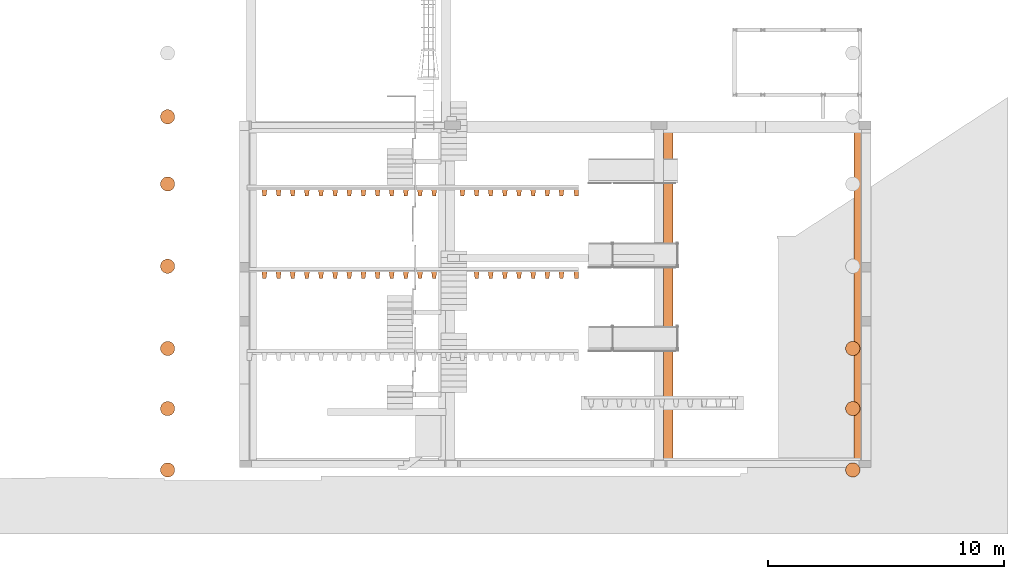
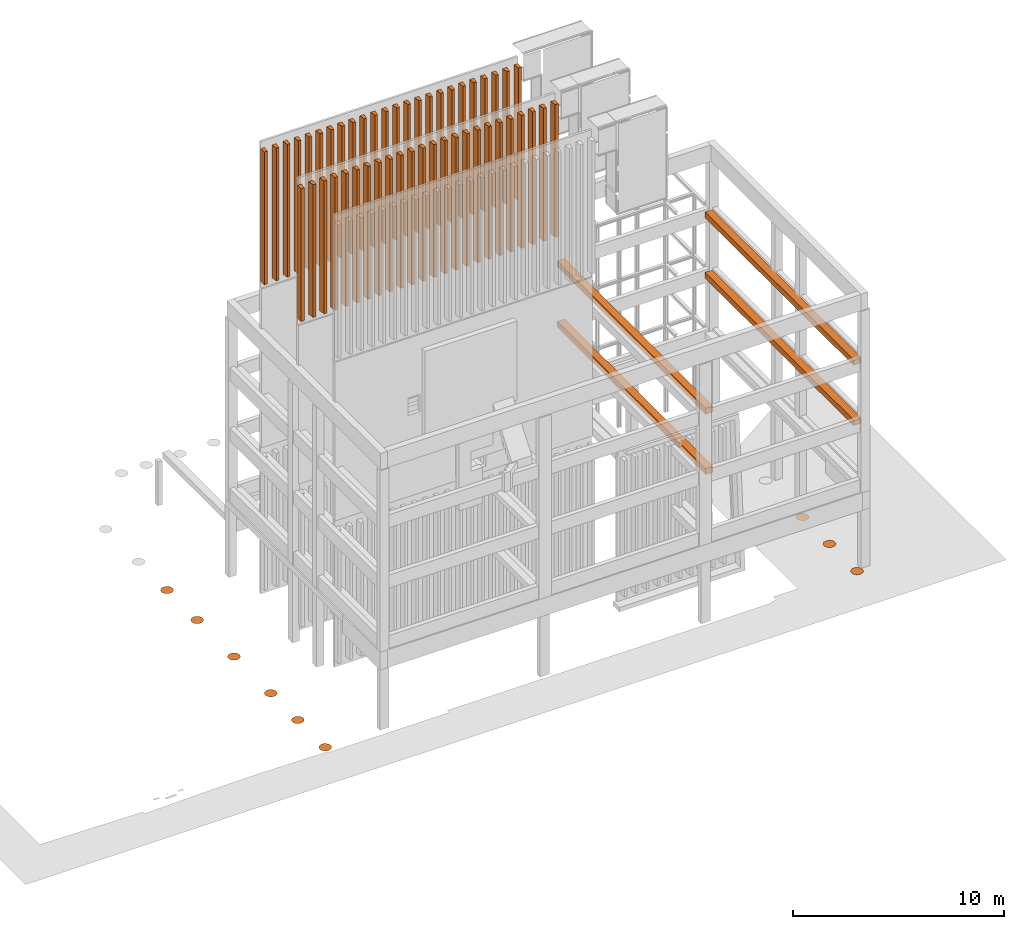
# One storey, part 14 of 15: 11 proxies.
"""IFC2X3 building model written with IfcOpenShell, lengths in metres."""

from ifc_helpers import new_model, entity, si_unit, converted_unit, derived_unit, money_unit, direction, frame, origin_with_axes, place, context, subcontext, project, spatial, open_shell, faceted_brep, surface_model, element, save


model = new_model("IFC2X3")

# Units and contexts
model_context = context("Model", 3, precision=1e-05, world=origin_with_axes(), true_north=direction((0.0, 1.0)))
body_context = subcontext(model_context, "Body", "Model", "MODEL_VIEW", scale=1.0)
ifc_project = project(units=[si_unit("LENGTHUNIT", "METRE"), si_unit("AREAUNIT", "SQUARE_METRE"), si_unit("VOLUMEUNIT", "CUBIC_METRE"), si_unit("ABSORBEDDOSEUNIT", "GRAY"), si_unit("AMOUNTOFSUBSTANCEUNIT", "MOLE"), si_unit("DOSEEQUIVALENTUNIT", "SIEVERT"), si_unit("ELECTRICCAPACITANCEUNIT", "FARAD"), si_unit("ELECTRICCHARGEUNIT", "COULOMB"), si_unit("ELECTRICCONDUCTANCEUNIT", "SIEMENS"), si_unit("ELECTRICCURRENTUNIT", "AMPERE"), si_unit("ELECTRICRESISTANCEUNIT", "OHM"), si_unit("ELECTRICVOLTAGEUNIT", "VOLT"), si_unit("ENERGYUNIT", "JOULE"), si_unit("FORCEUNIT", "NEWTON"), si_unit("FREQUENCYUNIT", "HERTZ"), si_unit("ILLUMINANCEUNIT", "LUX"), si_unit("INDUCTANCEUNIT", "HENRY"), si_unit("LUMINOUSFLUXUNIT", "LUMEN"), si_unit("LUMINOUSINTENSITYUNIT", "CANDELA"), si_unit("MAGNETICFLUXDENSITYUNIT", "TESLA"), si_unit("MAGNETICFLUXUNIT", "WEBER"), si_unit("MASSUNIT", "GRAM"), converted_unit("PLANEANGLEUNIT", "degree", entity("IfcReal", 0.0174532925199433), si_unit("PLANEANGLEUNIT", "RADIAN"), dimensions=[0, 0, 0, 0, 0, 0, 0]), si_unit("POWERUNIT", "WATT"), si_unit("PRESSUREUNIT", "PASCAL"), si_unit("RADIOACTIVITYUNIT", "BECQUEREL"), si_unit("SOLIDANGLEUNIT", "STERADIAN"), si_unit("THERMODYNAMICTEMPERATUREUNIT", "KELVIN"), si_unit("TIMEUNIT", "SECOND"), derived_unit("ACCELERATIONUNIT", [(si_unit("LENGTHUNIT", "METRE"), 1), (si_unit("TIMEUNIT", "SECOND"), -2)]), derived_unit("ANGULARVELOCITYUNIT", [(converted_unit("PLANEANGLEUNIT", "degree", entity("IfcReal", 0.0174532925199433), si_unit("PLANEANGLEUNIT", "RADIAN"), dimensions=[0, 0, 0, 0, 0, 0, 0]), 1), (si_unit("TIMEUNIT", "SECOND"), -1)]), derived_unit("CURVATUREUNIT", [(converted_unit("PLANEANGLEUNIT", "degree", entity("IfcReal", 0.0174532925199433), si_unit("PLANEANGLEUNIT", "RADIAN"), dimensions=[0, 0, 0, 0, 0, 0, 0]), 1), (si_unit("LENGTHUNIT", "METRE"), -1)]), derived_unit("DYNAMICVISCOSITYUNIT", [(si_unit("PRESSUREUNIT", "PASCAL"), 1), (si_unit("TIMEUNIT", "SECOND"), 1)]), derived_unit("HEATFLUXDENSITYUNIT", [(si_unit("POWERUNIT", "WATT"), 1), (si_unit("LENGTHUNIT", "METRE"), -2)]), derived_unit("HEATINGVALUEUNIT", [(si_unit("ENERGYUNIT", "JOULE"), 1), (si_unit("MASSUNIT", "GRAM"), -1)]), derived_unit("INTEGERCOUNTRATEUNIT", [(si_unit("TIMEUNIT", "SECOND"), -1)]), derived_unit("IONCONCENTRATIONUNIT", [(si_unit("MASSUNIT", "GRAM"), 1), (si_unit("VOLUMEUNIT", "CUBIC_METRE"), -1)]), derived_unit("ISOTHERMALMOISTURECAPACITYUNIT", [(si_unit("VOLUMEUNIT", "CUBIC_METRE"), 1), (si_unit("MASSUNIT", "GRAM"), -1)]), derived_unit("KINEMATICVISCOSITYUNIT", [(si_unit("AREAUNIT", "SQUARE_METRE"), 1), (si_unit("TIMEUNIT", "SECOND"), -1)]), derived_unit("LINEARFORCEUNIT", [(si_unit("FORCEUNIT", "NEWTON"), 1), (si_unit("LENGTHUNIT", "METRE"), -1)]), derived_unit("LINEARMOMENTUNIT", [(si_unit("FORCEUNIT", "NEWTON"), 1), (si_unit("LENGTHUNIT", "METRE"), -1)]), derived_unit("LINEARSTIFFNESSUNIT", [(si_unit("FORCEUNIT", "NEWTON"), 1), (si_unit("LENGTHUNIT", "METRE"), -1)]), derived_unit("LINEARVELOCITYUNIT", [(si_unit("LENGTHUNIT", "METRE"), 1), (si_unit("TIMEUNIT", "SECOND"), -1)]), derived_unit("LUMINOUSINTENSITYDISTRIBUTIONUNIT", [(si_unit("LUMINOUSINTENSITYUNIT", "CANDELA"), 1), (si_unit("LUMINOUSFLUXUNIT", "LUMEN"), -1)]), derived_unit("MASSDENSITYUNIT", [(si_unit("MASSUNIT", "GRAM"), 1), (si_unit("VOLUMEUNIT", "CUBIC_METRE"), -1)]), derived_unit("MASSFLOWRATEUNIT", [(si_unit("MASSUNIT", "GRAM"), 1), (si_unit("TIMEUNIT", "SECOND"), -1)]), derived_unit("MASSPERLENGTHUNIT", [(si_unit("MASSUNIT", "GRAM"), 1), (si_unit("LENGTHUNIT", "METRE"), -1)]), derived_unit("MODULUSOFELASTICITYUNIT", [(si_unit("FORCEUNIT", "NEWTON"), 1), (si_unit("AREAUNIT", "SQUARE_METRE"), -1)]), derived_unit("MODULUSOFLINEARSUBGRADEREACTIONUNIT", [(si_unit("FORCEUNIT", "NEWTON"), 1), (si_unit("LENGTHUNIT", "METRE"), -2)]), derived_unit("MODULUSOFROTATIONALSUBGRADEREACTIONUNIT", [(si_unit("FORCEUNIT", "NEWTON"), 1), (si_unit("LENGTHUNIT", "METRE"), 1)]), derived_unit("MODULUSOFSUBGRADEREACTIONUNIT", [(si_unit("FORCEUNIT", "NEWTON"), 1), (si_unit("VOLUMEUNIT", "CUBIC_METRE"), -1)]), derived_unit("MOISTUREDIFFUSIVITYUNIT", [(si_unit("VOLUMEUNIT", "CUBIC_METRE"), 1), (si_unit("TIMEUNIT", "SECOND"), -1)]), derived_unit("MOLECULARWEIGHTUNIT", [(si_unit("MASSUNIT", "GRAM"), 1), (si_unit("AMOUNTOFSUBSTANCEUNIT", "MOLE"), -1)]), derived_unit("PLANARFORCEUNIT", [(si_unit("FORCEUNIT", "NEWTON"), 1), (si_unit("LENGTHUNIT", "METRE"), -2)]), derived_unit("ROTATIONALFREQUENCYUNIT", [(si_unit("TIMEUNIT", "SECOND"), -1)]), derived_unit("ROTATIONALMASSUNIT", [(si_unit("MASSUNIT", "GRAM"), 1), (si_unit("LENGTHUNIT", "METRE"), 2)]), derived_unit("ROTATIONALSTIFFNESSUNIT", [(si_unit("FORCEUNIT", "NEWTON"), 1), (si_unit("LENGTHUNIT", "METRE"), 1), (converted_unit("PLANEANGLEUNIT", "degree", entity("IfcReal", 0.0174532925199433), si_unit("PLANEANGLEUNIT", "RADIAN"), dimensions=[0, 0, 0, 0, 0, 0, 0]), -1)]), derived_unit("SECTIONAREAINTEGRALUNIT", [(si_unit("LENGTHUNIT", "METRE"), 5)]), derived_unit("SECTIONMODULUSUNIT", [(si_unit("LENGTHUNIT", "METRE"), 3)]), derived_unit("SHEARMODULUSUNIT", [(si_unit("FORCEUNIT", "NEWTON"), 1), (si_unit("AREAUNIT", "SQUARE_METRE"), -1)]), derived_unit("SOUNDPOWERUNIT", [(si_unit("ENERGYUNIT", "JOULE"), 1), (si_unit("TIMEUNIT", "SECOND"), -1)]), derived_unit("SPECIFICHEATCAPACITYUNIT", [(si_unit("FORCEUNIT", "NEWTON"), 1), (si_unit("MASSUNIT", "GRAM"), -1), (si_unit("THERMODYNAMICTEMPERATUREUNIT", "KELVIN"), -1)]), derived_unit("TEMPERATUREGRADIENTUNIT", [(si_unit("THERMODYNAMICTEMPERATUREUNIT", "KELVIN"), 1), (si_unit("LENGTHUNIT", "METRE"), -1)]), derived_unit("THERMALADMITTANCEUNIT", [(si_unit("POWERUNIT", "WATT"), 1), (si_unit("AREAUNIT", "SQUARE_METRE"), -1), (si_unit("THERMODYNAMICTEMPERATUREUNIT", "KELVIN"), -1)]), derived_unit("THERMALCONDUCTANCEUNIT", [(si_unit("POWERUNIT", "WATT"), 1), (si_unit("LENGTHUNIT", "METRE"), -1), (si_unit("THERMODYNAMICTEMPERATUREUNIT", "KELVIN"), -1)]), derived_unit("THERMALEXPANSIONCOEFFICIENTUNIT", [(si_unit("THERMODYNAMICTEMPERATUREUNIT", "KELVIN"), -1)]), derived_unit("THERMALRESISTANCEUNIT", [(si_unit("AREAUNIT", "SQUARE_METRE"), 1), (si_unit("POWERUNIT", "WATT"), -1)]), derived_unit("THERMALTRANSMITTANCEUNIT", [(si_unit("POWERUNIT", "WATT"), 1), (si_unit("AREAUNIT", "SQUARE_METRE"), -1), (si_unit("THERMODYNAMICTEMPERATUREUNIT", "KELVIN"), -1)]), derived_unit("TORQUEUNIT", [(si_unit("FORCEUNIT", "NEWTON"), 1), (si_unit("LENGTHUNIT", "METRE"), 1)]), derived_unit("VAPORPERMEABILITYUNIT", [(si_unit("MASSUNIT", "GRAM"), 1), (si_unit("TIMEUNIT", "SECOND"), -1)]), derived_unit("VOLUMETRICFLOWRATEUNIT", [(si_unit("VOLUMEUNIT", "CUBIC_METRE"), 1), (si_unit("TIMEUNIT", "SECOND"), -1)]), derived_unit("WARPINGCONSTANTUNIT", [(si_unit("LENGTHUNIT", "METRE"), 6)]), derived_unit("WARPINGMOMENTUNIT", [(si_unit("FORCEUNIT", "NEWTON"), 1), (si_unit("LENGTHUNIT", "METRE"), 2)]), money_unit("GBP")], contexts=[model_context])

# Site, building, storey
site_placement = place(None, origin_with_axes())
site = spatial("IfcSite", under=ifc_project, at=site_placement, Name="Site", CompositionType="ELEMENT")
building_placement = place(site_placement, origin_with_axes())
building = spatial("IfcBuilding", under=site, at=building_placement, Name="Building01", CompositionType="ELEMENT")
storey_placement = place(building_placement, origin_with_axes())
storey = spatial("IfcBuildingStorey", under=building, at=storey_placement, Name="GF", CompositionType="ELEMENT", Elevation=0.0)

# Proxies
placement = place(storey_placement, origin_with_axes())
element("IfcBuildingElementProxy", 1, at=placement, inside=storey, context=body_context, shape_type="SurfaceModel", body=[
    surface_model("IfcShellBasedSurfaceModel", [(-2.655321, 0.059674, 0.0), (-2.700993, 0.169936, 0.0), (-2.785384, 0.254328, 0.0), (-2.895647, 0.3, 0.0), (-3.014994, 0.3, 0.0), (-3.125257, 0.254328, 0.0), (-3.209648, 0.169936, 0.0), (-3.255321, 0.059674, 0.0), (-3.255321, -0.059674, 0.0), (-3.209648, -0.169936, 0.0), (-3.125257, -0.254328, 0.0), (-3.014994, -0.3, 0.0), (-2.895647, -0.3, 0.0), (-2.785384, -0.254328, 0.0), (-2.700993, -0.169936, 0.0), (-2.655321, -0.059674, 0.0)], [open_shell([[[0, 1, 2, 3, 4, 5, 6, 7, 8, 9, 10, 11, 12, 13, 14, 15]]])]),
])
element("IfcBuildingElementProxy", 2, at=placement, inside=storey, context=body_context, shape_type="SurfaceModel", body=[
    surface_model("IfcShellBasedSurfaceModel", [(26.408929, 0.059674, 0.0), (26.363256, 0.169936, 0.0), (26.278865, 0.254328, 0.0), (26.168602, 0.3, 0.0), (26.049255, 0.3, 0.0), (25.938992, 0.254328, 0.0), (25.854601, 0.169936, 0.0), (25.808929, 0.059674, 0.0), (25.808929, -0.059674, 0.0), (25.854601, -0.169936, 0.0), (25.938992, -0.254328, 0.0), (26.049255, -0.3, 0.0), (26.168602, -0.3, 0.0), (26.278865, -0.254328, 0.0), (26.363256, -0.169936, 0.0), (26.408929, -0.059674, 0.0)], [open_shell([[[0, 1, 2, 3, 4, 5, 6, 7, 8, 9, 10, 11, 12, 13, 14, 15]]])]),
])
element("IfcBuildingElementProxy", 3, at=placement, inside=storey, context=body_context, shape_type="SurfaceModel", body=[
    surface_model("IfcShellBasedSurfaceModel", [(-2.655321, 2.659674, 0.0), (-2.700993, 2.769936, 0.0), (-2.785384, 2.854328, 0.0), (-2.895647, 2.9, 0.0), (-3.014994, 2.9, 0.0), (-3.125257, 2.854328, 0.0), (-3.209648, 2.769936, 0.0), (-3.255321, 2.659674, 0.0), (-3.255321, 2.540326, 0.0), (-3.209648, 2.430064, 0.0), (-3.125257, 2.345672, 0.0), (-3.014994, 2.3, 0.0), (-2.895647, 2.3, 0.0), (-2.785384, 2.345672, 0.0), (-2.700993, 2.430064, 0.0), (-2.655321, 2.540326, 0.0)], [open_shell([[[0, 1, 2, 3, 4, 5, 6, 7, 8, 9, 10, 11, 12, 13, 14, 15]]])]),
])
element("IfcBuildingElementProxy", 4, at=placement, inside=storey, context=body_context, shape_type="SurfaceModel", body=[
    surface_model("IfcShellBasedSurfaceModel", [(26.408929, 2.659674, 0.0), (26.363256, 2.769936, 0.0), (26.278865, 2.854328, 0.0), (26.168602, 2.9, 0.0), (26.049255, 2.9, 0.0), (25.938992, 2.854328, 0.0), (25.854601, 2.769936, 0.0), (25.808929, 2.659674, 0.0), (25.808929, 2.540326, 0.0), (25.854601, 2.430064, 0.0), (25.938992, 2.345672, 0.0), (26.049255, 2.3, 0.0), (26.168602, 2.3, 0.0), (26.278865, 2.345672, 0.0), (26.363256, 2.430064, 0.0), (26.408929, 2.540326, 0.0)], [open_shell([[[0, 1, 2, 3, 4, 5, 6, 7, 8, 9, 10, 11, 12, 13, 14, 15]]])]),
])
element("IfcBuildingElementProxy", 5, at=placement, inside=storey, context=body_context, shape_type="SurfaceModel", body=[
    surface_model("IfcShellBasedSurfaceModel", [(-2.655321, 5.209674, 0.0), (-2.700993, 5.319936, 0.0), (-2.785384, 5.404328, 0.0), (-2.895647, 5.45, 0.0), (-3.014994, 5.45, 0.0), (-3.125257, 5.404328, 0.0), (-3.209648, 5.319936, 0.0), (-3.255321, 5.209674, 0.0), (-3.255321, 5.090326, 0.0), (-3.209648, 4.980064, 0.0), (-3.125257, 4.895672, 0.0), (-3.014994, 4.85, 0.0), (-2.895647, 4.85, 0.0), (-2.785384, 4.895672, 0.0), (-2.700993, 4.980064, 0.0), (-2.655321, 5.090326, 0.0)], [open_shell([[[0, 1, 2, 3, 4, 5, 6, 7, 8, 9, 10, 11, 12, 13, 14, 15]]])]),
])
element("IfcBuildingElementProxy", 6, at=placement, inside=storey, context=body_context, shape_type="SurfaceModel", body=[
    surface_model("IfcShellBasedSurfaceModel", [(26.408929, 5.209674, 0.0), (26.363256, 5.319936, 0.0), (26.278865, 5.404328, 0.0), (26.168602, 5.45, 0.0), (26.049255, 5.45, 0.0), (25.938992, 5.404328, 0.0), (25.854601, 5.319936, 0.0), (25.808929, 5.209674, 0.0), (25.808929, 5.090326, 0.0), (25.854601, 4.980064, 0.0), (25.938992, 4.895672, 0.0), (26.049255, 4.85, 0.0), (26.168602, 4.85, 0.0), (26.278865, 4.895672, 0.0), (26.363256, 4.980064, 0.0), (26.408929, 5.090326, 0.0)], [open_shell([[[0, 1, 2, 3, 4, 5, 6, 7, 8, 9, 10, 11, 12, 13, 14, 15]]])]),
])
element("IfcBuildingElementProxy", 7, at=placement, inside=storey, context=body_context, shape_type="SurfaceModel", body=[
    surface_model("IfcShellBasedSurfaceModel", [(-2.655321, 8.699674, 0.0), (-2.700993, 8.809936, 0.0), (-2.785384, 8.894328, 0.0), (-2.895647, 8.94, 0.0), (-3.014994, 8.94, 0.0), (-3.125257, 8.894328, 0.0), (-3.209648, 8.809936, 0.0), (-3.255321, 8.699674, 0.0), (-3.255321, 8.580326, 0.0), (-3.209648, 8.470064, 0.0), (-3.125257, 8.385672, 0.0), (-3.014994, 8.34, 0.0), (-2.895647, 8.34, 0.0), (-2.785384, 8.385672, 0.0), (-2.700993, 8.470064, 0.0), (-2.655321, 8.580326, 0.0)], [open_shell([[[0, 1, 2, 3, 4, 5, 6, 7, 8, 9, 10, 11, 12, 13, 14, 15]]])]),
])
element("IfcBuildingElementProxy", 8, at=placement, inside=storey, context=body_context, shape_type="SurfaceModel", body=[
    surface_model("IfcShellBasedSurfaceModel", [(-2.655321, 12.189674, 0.0), (-2.700993, 12.299936, 0.0), (-2.785384, 12.384328, 0.0), (-2.895647, 12.43, 0.0), (-3.014994, 12.43, 0.0), (-3.125257, 12.384328, 0.0), (-3.209648, 12.299936, 0.0), (-3.255321, 12.189674, 0.0), (-3.255321, 12.070326, 0.0), (-3.209648, 11.960064, 0.0), (-3.125257, 11.875672, 0.0), (-3.014994, 11.83, 0.0), (-2.895647, 11.83, 0.0), (-2.785384, 11.875672, 0.0), (-2.700993, 11.960064, 0.0), (-2.655321, 12.070326, 0.0)], [open_shell([[[0, 1, 2, 3, 4, 5, 6, 7, 8, 9, 10, 11, 12, 13, 14, 15]]])]),
])
element("IfcBuildingElementProxy", 9, at=placement, inside=storey, context=body_context, shape_type="SurfaceModel", body=[
    surface_model("IfcShellBasedSurfaceModel", [(-2.655321, 15.039674, 0.0), (-2.700993, 15.149936, 0.0), (-2.785384, 15.234328, 0.0), (-2.895647, 15.28, 0.0), (-3.014994, 15.28, 0.0), (-3.125257, 15.234328, 0.0), (-3.209648, 15.149936, 0.0), (-3.255321, 15.039674, 0.0), (-3.255321, 14.920326, 0.0), (-3.209648, 14.810064, 0.0), (-3.125257, 14.725672, 0.0), (-3.014994, 14.68, 0.0), (-2.895647, 14.68, 0.0), (-2.785384, 14.725672, 0.0), (-2.700993, 14.810064, 0.0), (-2.655321, 14.920326, 0.0)], [open_shell([[[0, 1, 2, 3, 4, 5, 6, 7, 8, 9, 10, 11, 12, 13, 14, 15]]])]),
])
proxy_10_placement = place(storey_placement, frame((7.45, 8.3, 22.322501), z_axis=(0.0, 1.0, 0.0), x_axis=(0.0, 0.0, 1.0)))
element("IfcBuildingElementProxy", 10, at=proxy_10_placement, inside=storey, context=body_context, shape_type="Brep", body=[
    faceted_brep([(-3.839638, -7.03, -0.17), (3.8375, -7.03, -0.17), (3.8375, -7.03, 0.17), (-3.839638, -7.03, 0.17), (-3.839638, -6.858571, -0.17), (3.8375, -6.858571, -0.17), (-3.839638, -6.81, 0.17), (3.8375, -6.81, 0.17)], [[[0, 1, 2, 3]], [[4, 5, 1, 0]], [[6, 7, 5, 4]], [[3, 2, 7, 6]], [[1, 5, 7, 2]], [[3, 6, 4, 0]]]),
    faceted_brep([(-3.839638, 1.428572, -0.17), (3.8375, 1.428572, -0.17), (3.8375, 1.38, 0.17), (-3.839638, 1.38, 0.17), (-3.839638, 1.571429, -0.17), (3.8375, 1.571429, -0.17), (-3.839638, 1.62, 0.17), (3.8375, 1.62, 0.17)], [[[0, 1, 2, 3]], [[4, 5, 1, 0]], [[6, 7, 5, 4]], [[3, 2, 7, 6]], [[1, 5, 7, 2]], [[3, 6, 4, 0]]]),
    faceted_brep([(-3.839638, 0.828572, -0.17), (3.8375, 0.828572, -0.17), (3.8375, 0.78, 0.17), (-3.839638, 0.78, 0.17), (-3.839638, 0.971429, -0.17), (3.8375, 0.971429, -0.17), (-3.839638, 1.02, 0.17), (3.8375, 1.02, 0.17)], [[[0, 1, 2, 3]], [[4, 5, 1, 0]], [[6, 7, 5, 4]], [[3, 2, 7, 6]], [[1, 5, 7, 2]], [[3, 6, 4, 0]]]),
    faceted_brep([(-3.839638, -0.371428, -0.17), (3.8375, -0.371428, -0.17), (3.8375, -0.42, 0.17), (-3.839638, -0.42, 0.17), (-3.839638, -0.228571, -0.17), (3.8375, -0.228571, -0.17), (-3.839638, -0.18, 0.17), (3.8375, -0.18, 0.17)], [[[0, 1, 2, 3]], [[4, 5, 1, 0]], [[6, 7, 5, 4]], [[3, 2, 7, 6]], [[1, 5, 7, 2]], [[3, 6, 4, 0]]]),
    faceted_brep([(-3.839638, -0.971428, -0.17), (3.8375, -0.971428, -0.17), (3.8375, -1.02, 0.17), (-3.839638, -1.02, 0.17), (-3.839638, -0.828571, -0.17), (3.8375, -0.828571, -0.17), (-3.839638, -0.78, 0.17), (3.8375, -0.78, 0.17)], [[[0, 1, 2, 3]], [[4, 5, 1, 0]], [[6, 7, 5, 4]], [[3, 2, 7, 6]], [[1, 5, 7, 2]], [[3, 6, 4, 0]]]),
    faceted_brep([(-3.839638, 0.228572, -0.17), (3.8375, 0.228572, -0.17), (3.8375, 0.18, 0.17), (-3.839638, 0.18, 0.17), (-3.839638, 0.371429, -0.17), (3.8375, 0.371429, -0.17), (-3.839638, 0.42, 0.17), (3.8375, 0.42, 0.17)], [[[0, 1, 2, 3]], [[4, 5, 1, 0]], [[6, 7, 5, 4]], [[3, 2, 7, 6]], [[1, 5, 7, 2]], [[3, 6, 4, 0]]]),
    faceted_brep([(-3.839638, -2.171428, -0.17), (3.8375, -2.171428, -0.17), (3.8375, -2.22, 0.17), (-3.839638, -2.22, 0.17), (-3.839638, -2.028571, -0.17), (3.8375, -2.028571, -0.17), (-3.839638, -1.98, 0.17), (3.8375, -1.98, 0.17)], [[[0, 1, 2, 3]], [[4, 5, 1, 0]], [[6, 7, 5, 4]], [[3, 2, 7, 6]], [[1, 5, 7, 2]], [[3, 6, 4, 0]]]),
    faceted_brep([(-3.839638, -2.771428, -0.17), (3.8375, -2.771428, -0.17), (3.8375, -2.82, 0.17), (-3.839638, -2.82, 0.17), (-3.839638, -2.628571, -0.17), (3.8375, -2.628571, -0.17), (-3.839638, -2.58, 0.17), (3.8375, -2.58, 0.17)], [[[0, 1, 2, 3]], [[4, 5, 1, 0]], [[6, 7, 5, 4]], [[3, 2, 7, 6]], [[1, 5, 7, 2]], [[3, 6, 4, 0]]]),
    faceted_brep([(-3.839638, -1.571428, -0.17), (3.8375, -1.571428, -0.17), (3.8375, -1.62, 0.17), (-3.839638, -1.62, 0.17), (-3.839638, -1.428571, -0.17), (3.8375, -1.428571, -0.17), (-3.839638, -1.38, 0.17), (3.8375, -1.38, 0.17)], [[[0, 1, 2, 3]], [[4, 5, 1, 0]], [[6, 7, 5, 4]], [[3, 2, 7, 6]], [[1, 5, 7, 2]], [[3, 6, 4, 0]]]),
    faceted_brep([(-3.839638, -3.971428, -0.17), (3.8375, -3.971428, -0.17), (3.8375, -4.02, 0.17), (-3.839638, -4.02, 0.17), (-3.839638, -3.828571, -0.17), (3.8375, -3.828571, -0.17), (-3.839638, -3.78, 0.17), (3.8375, -3.78, 0.17)], [[[0, 1, 2, 3]], [[4, 5, 1, 0]], [[6, 7, 5, 4]], [[3, 2, 7, 6]], [[1, 5, 7, 2]], [[3, 6, 4, 0]]]),
    faceted_brep([(-3.839638, -4.571428, -0.17), (3.8375, -4.571428, -0.17), (3.8375, -4.62, 0.17), (-3.839638, -4.62, 0.17), (-3.839638, -4.428571, -0.17), (3.8375, -4.428571, -0.17), (-3.839638, -4.38, 0.17), (3.8375, -4.38, 0.17)], [[[0, 1, 2, 3]], [[4, 5, 1, 0]], [[6, 7, 5, 4]], [[3, 2, 7, 6]], [[1, 5, 7, 2]], [[3, 6, 4, 0]]]),
    faceted_brep([(-3.839638, -3.371428, -0.17), (3.8375, -3.371428, -0.17), (3.8375, -3.42, 0.17), (-3.839638, -3.42, 0.17), (-3.839638, -3.228571, -0.17), (3.8375, -3.228571, -0.17), (-3.839638, -3.18, 0.17), (3.8375, -3.18, 0.17)], [[[0, 1, 2, 3]], [[4, 5, 1, 0]], [[6, 7, 5, 4]], [[3, 2, 7, 6]], [[1, 5, 7, 2]], [[3, 6, 4, 0]]]),
    faceted_brep([(-3.839638, -5.771428, -0.17), (3.8375, -5.771428, -0.17), (3.8375, -5.82, 0.17), (-3.839638, -5.82, 0.17), (-3.839638, -5.628571, -0.17), (3.8375, -5.628571, -0.17), (-3.839638, -5.58, 0.17), (3.8375, -5.58, 0.17)], [[[0, 1, 2, 3]], [[4, 5, 1, 0]], [[6, 7, 5, 4]], [[3, 2, 7, 6]], [[1, 5, 7, 2]], [[3, 6, 4, 0]]]),
    faceted_brep([(-3.839638, -6.371428, -0.17), (3.8375, -6.371428, -0.17), (3.8375, -6.42, 0.17), (-3.839638, -6.42, 0.17), (-3.839638, -6.228571, -0.17), (3.8375, -6.228571, -0.17), (-3.839638, -6.18, 0.17), (3.8375, -6.18, 0.17)], [[[0, 1, 2, 3]], [[4, 5, 1, 0]], [[6, 7, 5, 4]], [[3, 2, 7, 6]], [[1, 5, 7, 2]], [[3, 6, 4, 0]]]),
    faceted_brep([(-3.839638, -5.171428, -0.17), (3.8375, -5.171428, -0.17), (3.8375, -5.22, 0.17), (-3.839638, -5.22, 0.17), (-3.839638, -5.028571, -0.17), (3.8375, -5.028571, -0.17), (-3.839638, -4.98, 0.17), (3.8375, -4.98, 0.17)], [[[0, 1, 2, 3]], [[4, 5, 1, 0]], [[6, 7, 5, 4]], [[3, 2, 7, 6]], [[1, 5, 7, 2]], [[3, 6, 4, 0]]]),
    faceted_brep([(-3.839638, 7.03, 0.17), (3.8375, 7.03, 0.17), (3.8375, 7.03, -0.17), (-3.839638, 7.03, -0.17), (-3.839638, 6.81, 0.17), (3.8375, 6.81, 0.17), (-3.839638, 6.858572, -0.17), (3.8375, 6.858572, -0.17)], [[[0, 1, 2, 3]], [[4, 5, 1, 0]], [[6, 7, 5, 4]], [[3, 2, 7, 6]], [[1, 5, 7, 2]], [[3, 6, 4, 0]]]),
    faceted_brep([(-3.839638, 5.028572, -0.17), (3.8375, 5.028572, -0.17), (3.8375, 4.98, 0.17), (-3.839638, 4.98, 0.17), (-3.839638, 5.171429, -0.17), (3.8375, 5.171429, -0.17), (-3.839638, 5.22, 0.17), (3.8375, 5.22, 0.17)], [[[0, 1, 2, 3]], [[4, 5, 1, 0]], [[6, 7, 5, 4]], [[3, 2, 7, 6]], [[1, 5, 7, 2]], [[3, 6, 4, 0]]]),
    faceted_brep([(-3.839638, 4.428572, -0.17), (3.8375, 4.428572, -0.17), (3.8375, 4.38, 0.17), (-3.839638, 4.38, 0.17), (-3.839638, 4.571429, -0.17), (3.8375, 4.571429, -0.17), (-3.839638, 4.62, 0.17), (3.8375, 4.62, 0.17)], [[[0, 1, 2, 3]], [[4, 5, 1, 0]], [[6, 7, 5, 4]], [[3, 2, 7, 6]], [[1, 5, 7, 2]], [[3, 6, 4, 0]]]),
    faceted_brep([(-3.839638, 6.228572, -0.17), (3.8375, 6.228572, -0.17), (3.8375, 6.18, 0.17), (-3.839638, 6.18, 0.17), (-3.839638, 6.371429, -0.17), (3.8375, 6.371429, -0.17), (-3.839638, 6.42, 0.17), (3.8375, 6.42, 0.17)], [[[0, 1, 2, 3]], [[4, 5, 1, 0]], [[6, 7, 5, 4]], [[3, 2, 7, 6]], [[1, 5, 7, 2]], [[3, 6, 4, 0]]]),
    faceted_brep([(-3.839638, 5.628572, -0.17), (3.8375, 5.628572, -0.17), (3.8375, 5.58, 0.17), (-3.839638, 5.58, 0.17), (-3.839638, 5.771429, -0.17), (3.8375, 5.771429, -0.17), (-3.839638, 5.82, 0.17), (3.8375, 5.82, 0.17)], [[[0, 1, 2, 3]], [[4, 5, 1, 0]], [[6, 7, 5, 4]], [[3, 2, 7, 6]], [[1, 5, 7, 2]], [[3, 6, 4, 0]]]),
    faceted_brep([(-3.839638, 3.228572, -0.17), (3.8375, 3.228572, -0.17), (3.8375, 3.18, 0.17), (-3.839638, 3.18, 0.17), (-3.839638, 3.371429, -0.17), (3.8375, 3.371429, -0.17), (-3.839638, 3.42, 0.17), (3.8375, 3.42, 0.17)], [[[0, 1, 2, 3]], [[4, 5, 1, 0]], [[6, 7, 5, 4]], [[3, 2, 7, 6]], [[1, 5, 7, 2]], [[3, 6, 4, 0]]]),
    faceted_brep([(-3.839638, 2.628572, -0.17), (3.8375, 2.628572, -0.17), (3.8375, 2.58, 0.17), (-3.839638, 2.58, 0.17), (-3.839638, 2.771429, -0.17), (3.8375, 2.771429, -0.17), (-3.839638, 2.82, 0.17), (3.8375, 2.82, 0.17)], [[[0, 1, 2, 3]], [[4, 5, 1, 0]], [[6, 7, 5, 4]], [[3, 2, 7, 6]], [[1, 5, 7, 2]], [[3, 6, 4, 0]]]),
    faceted_brep([(-3.839638, 3.828572, -0.17), (3.8375, 3.828572, -0.17), (3.8375, 3.78, 0.17), (-3.839638, 3.78, 0.17), (-3.839638, 3.971429, -0.17), (3.8375, 3.971429, -0.17), (-3.839638, 4.02, 0.17), (3.8375, 4.02, 0.17)], [[[0, 1, 2, 3]], [[4, 5, 1, 0]], [[6, 7, 5, 4]], [[3, 2, 7, 6]], [[1, 5, 7, 2]], [[3, 6, 4, 0]]]),
    faceted_brep([(-3.839638, 2.028572, -0.17), (3.8375, 2.028572, -0.17), (3.8375, 1.98, 0.17), (-3.839638, 1.98, 0.17), (-3.839638, 2.171429, -0.17), (3.8375, 2.171429, -0.17), (-3.839638, 2.22, 0.17), (3.8375, 2.22, 0.17)], [[[0, 1, 2, 3]], [[4, 5, 1, 0]], [[6, 7, 5, 4]], [[3, 2, 7, 6]], [[1, 5, 7, 2]], [[3, 6, 4, 0]]]),
    faceted_brep([(-14.192501, 19.110001, 6.18), (-14.192501, 19.110001, -7.88), (-14.192501, 18.710001, -7.88), (-14.192501, 18.710001, 6.18), (-13.852501, 19.110001, 6.18), (-13.852501, 19.110001, -7.88), (-13.852501, 18.710001, 6.18), (-13.852501, 18.710001, -7.88)], [[[0, 1, 2, 3]], [[4, 5, 1, 0]], [[6, 7, 5, 4]], [[3, 2, 7, 6]], [[1, 5, 7, 2]], [[3, 6, 4, 0]]]),
    faceted_brep([(-14.192501, 11.035001, 6.18), (-14.192501, 11.035001, -7.88), (-14.192501, 10.635001, -7.88), (-14.192501, 10.635001, 6.18), (-13.852501, 11.035001, 6.18), (-13.852501, 11.035001, -7.88), (-13.852501, 10.635001, 6.18), (-13.852501, 10.635001, -7.88)], [[[0, 1, 2, 3]], [[4, 5, 1, 0]], [[6, 7, 5, 4]], [[3, 2, 7, 6]], [[1, 5, 7, 2]], [[3, 6, 4, 0]]]),
])
proxy_11_placement = place(storey_placement, frame((7.45, 11.79, 22.322501), z_axis=(0.0, 1.0, 0.0), x_axis=(0.0, 0.0, 1.0)))
element("IfcBuildingElementProxy", 11, at=proxy_11_placement, inside=storey, context=body_context, shape_type="Brep", body=[
    faceted_brep([(-3.839638, -7.03, -0.17), (3.8375, -7.03, -0.17), (3.8375, -7.03, 0.17), (-3.839638, -7.03, 0.17), (-3.839638, -6.858571, -0.17), (3.8375, -6.858571, -0.17), (-3.839638, -6.81, 0.17), (3.8375, -6.81, 0.17)], [[[0, 1, 2, 3]], [[4, 5, 1, 0]], [[6, 7, 5, 4]], [[3, 2, 7, 6]], [[1, 5, 7, 2]], [[3, 6, 4, 0]]]),
    faceted_brep([(-3.839638, 1.428572, -0.17), (3.8375, 1.428572, -0.17), (3.8375, 1.38, 0.17), (-3.839638, 1.38, 0.17), (-3.839638, 1.571429, -0.17), (3.8375, 1.571429, -0.17), (-3.839638, 1.62, 0.17), (3.8375, 1.62, 0.17)], [[[0, 1, 2, 3]], [[4, 5, 1, 0]], [[6, 7, 5, 4]], [[3, 2, 7, 6]], [[1, 5, 7, 2]], [[3, 6, 4, 0]]]),
    faceted_brep([(-3.839638, 0.828572, -0.17), (3.8375, 0.828572, -0.17), (3.8375, 0.78, 0.17), (-3.839638, 0.78, 0.17), (-3.839638, 0.971429, -0.17), (3.8375, 0.971429, -0.17), (-3.839638, 1.02, 0.17), (3.8375, 1.02, 0.17)], [[[0, 1, 2, 3]], [[4, 5, 1, 0]], [[6, 7, 5, 4]], [[3, 2, 7, 6]], [[1, 5, 7, 2]], [[3, 6, 4, 0]]]),
    faceted_brep([(-3.839638, -0.371428, -0.17), (3.8375, -0.371428, -0.17), (3.8375, -0.42, 0.17), (-3.839638, -0.42, 0.17), (-3.839638, -0.228571, -0.17), (3.8375, -0.228571, -0.17), (-3.839638, -0.18, 0.17), (3.8375, -0.18, 0.17)], [[[0, 1, 2, 3]], [[4, 5, 1, 0]], [[6, 7, 5, 4]], [[3, 2, 7, 6]], [[1, 5, 7, 2]], [[3, 6, 4, 0]]]),
    faceted_brep([(-3.839638, -0.971428, -0.17), (3.8375, -0.971428, -0.17), (3.8375, -1.02, 0.17), (-3.839638, -1.02, 0.17), (-3.839638, -0.828571, -0.17), (3.8375, -0.828571, -0.17), (-3.839638, -0.78, 0.17), (3.8375, -0.78, 0.17)], [[[0, 1, 2, 3]], [[4, 5, 1, 0]], [[6, 7, 5, 4]], [[3, 2, 7, 6]], [[1, 5, 7, 2]], [[3, 6, 4, 0]]]),
    faceted_brep([(-3.839638, 0.228572, -0.17), (3.8375, 0.228572, -0.17), (3.8375, 0.18, 0.17), (-3.839638, 0.18, 0.17), (-3.839638, 0.371429, -0.17), (3.8375, 0.371429, -0.17), (-3.839638, 0.42, 0.17), (3.8375, 0.42, 0.17)], [[[0, 1, 2, 3]], [[4, 5, 1, 0]], [[6, 7, 5, 4]], [[3, 2, 7, 6]], [[1, 5, 7, 2]], [[3, 6, 4, 0]]]),
    faceted_brep([(-3.839638, -2.171428, -0.17), (3.8375, -2.171428, -0.17), (3.8375, -2.22, 0.17), (-3.839638, -2.22, 0.17), (-3.839638, -2.028571, -0.17), (3.8375, -2.028571, -0.17), (-3.839638, -1.98, 0.17), (3.8375, -1.98, 0.17)], [[[0, 1, 2, 3]], [[4, 5, 1, 0]], [[6, 7, 5, 4]], [[3, 2, 7, 6]], [[1, 5, 7, 2]], [[3, 6, 4, 0]]]),
    faceted_brep([(-3.839638, -2.771428, -0.17), (3.8375, -2.771428, -0.17), (3.8375, -2.82, 0.17), (-3.839638, -2.82, 0.17), (-3.839638, -2.628571, -0.17), (3.8375, -2.628571, -0.17), (-3.839638, -2.58, 0.17), (3.8375, -2.58, 0.17)], [[[0, 1, 2, 3]], [[4, 5, 1, 0]], [[6, 7, 5, 4]], [[3, 2, 7, 6]], [[1, 5, 7, 2]], [[3, 6, 4, 0]]]),
    faceted_brep([(-3.839638, -1.571428, -0.17), (3.8375, -1.571428, -0.17), (3.8375, -1.62, 0.17), (-3.839638, -1.62, 0.17), (-3.839638, -1.428571, -0.17), (3.8375, -1.428571, -0.17), (-3.839638, -1.38, 0.17), (3.8375, -1.38, 0.17)], [[[0, 1, 2, 3]], [[4, 5, 1, 0]], [[6, 7, 5, 4]], [[3, 2, 7, 6]], [[1, 5, 7, 2]], [[3, 6, 4, 0]]]),
    faceted_brep([(-3.839638, -3.971428, -0.17), (3.8375, -3.971428, -0.17), (3.8375, -4.02, 0.17), (-3.839638, -4.02, 0.17), (-3.839638, -3.828571, -0.17), (3.8375, -3.828571, -0.17), (-3.839638, -3.78, 0.17), (3.8375, -3.78, 0.17)], [[[0, 1, 2, 3]], [[4, 5, 1, 0]], [[6, 7, 5, 4]], [[3, 2, 7, 6]], [[1, 5, 7, 2]], [[3, 6, 4, 0]]]),
    faceted_brep([(-3.839638, -4.571428, -0.17), (3.8375, -4.571428, -0.17), (3.8375, -4.62, 0.17), (-3.839638, -4.62, 0.17), (-3.839638, -4.428571, -0.17), (3.8375, -4.428571, -0.17), (-3.839638, -4.38, 0.17), (3.8375, -4.38, 0.17)], [[[0, 1, 2, 3]], [[4, 5, 1, 0]], [[6, 7, 5, 4]], [[3, 2, 7, 6]], [[1, 5, 7, 2]], [[3, 6, 4, 0]]]),
    faceted_brep([(-3.839638, -3.371428, -0.17), (3.8375, -3.371428, -0.17), (3.8375, -3.42, 0.17), (-3.839638, -3.42, 0.17), (-3.839638, -3.228571, -0.17), (3.8375, -3.228571, -0.17), (-3.839638, -3.18, 0.17), (3.8375, -3.18, 0.17)], [[[0, 1, 2, 3]], [[4, 5, 1, 0]], [[6, 7, 5, 4]], [[3, 2, 7, 6]], [[1, 5, 7, 2]], [[3, 6, 4, 0]]]),
    faceted_brep([(-3.839638, -5.771428, -0.17), (3.8375, -5.771428, -0.17), (3.8375, -5.82, 0.17), (-3.839638, -5.82, 0.17), (-3.839638, -5.628571, -0.17), (3.8375, -5.628571, -0.17), (-3.839638, -5.58, 0.17), (3.8375, -5.58, 0.17)], [[[0, 1, 2, 3]], [[4, 5, 1, 0]], [[6, 7, 5, 4]], [[3, 2, 7, 6]], [[1, 5, 7, 2]], [[3, 6, 4, 0]]]),
    faceted_brep([(-3.839638, -6.371428, -0.17), (3.8375, -6.371428, -0.17), (3.8375, -6.42, 0.17), (-3.839638, -6.42, 0.17), (-3.839638, -6.228571, -0.17), (3.8375, -6.228571, -0.17), (-3.839638, -6.18, 0.17), (3.8375, -6.18, 0.17)], [[[0, 1, 2, 3]], [[4, 5, 1, 0]], [[6, 7, 5, 4]], [[3, 2, 7, 6]], [[1, 5, 7, 2]], [[3, 6, 4, 0]]]),
    faceted_brep([(-3.839638, -5.171428, -0.17), (3.8375, -5.171428, -0.17), (3.8375, -5.22, 0.17), (-3.839638, -5.22, 0.17), (-3.839638, -5.028571, -0.17), (3.8375, -5.028571, -0.17), (-3.839638, -4.98, 0.17), (3.8375, -4.98, 0.17)], [[[0, 1, 2, 3]], [[4, 5, 1, 0]], [[6, 7, 5, 4]], [[3, 2, 7, 6]], [[1, 5, 7, 2]], [[3, 6, 4, 0]]]),
    faceted_brep([(-3.839638, 7.03, 0.17), (3.8375, 7.03, 0.17), (3.8375, 7.03, -0.17), (-3.839638, 7.03, -0.17), (-3.839638, 6.81, 0.17), (3.8375, 6.81, 0.17), (-3.839638, 6.858572, -0.17), (3.8375, 6.858572, -0.17)], [[[0, 1, 2, 3]], [[4, 5, 1, 0]], [[6, 7, 5, 4]], [[3, 2, 7, 6]], [[1, 5, 7, 2]], [[3, 6, 4, 0]]]),
    faceted_brep([(-3.839638, 5.028572, -0.17), (3.8375, 5.028572, -0.17), (3.8375, 4.98, 0.17), (-3.839638, 4.98, 0.17), (-3.839638, 5.171429, -0.17), (3.8375, 5.171429, -0.17), (-3.839638, 5.22, 0.17), (3.8375, 5.22, 0.17)], [[[0, 1, 2, 3]], [[4, 5, 1, 0]], [[6, 7, 5, 4]], [[3, 2, 7, 6]], [[1, 5, 7, 2]], [[3, 6, 4, 0]]]),
    faceted_brep([(-3.839638, 4.428572, -0.17), (3.8375, 4.428572, -0.17), (3.8375, 4.38, 0.17), (-3.839638, 4.38, 0.17), (-3.839638, 4.571429, -0.17), (3.8375, 4.571429, -0.17), (-3.839638, 4.62, 0.17), (3.8375, 4.62, 0.17)], [[[0, 1, 2, 3]], [[4, 5, 1, 0]], [[6, 7, 5, 4]], [[3, 2, 7, 6]], [[1, 5, 7, 2]], [[3, 6, 4, 0]]]),
    faceted_brep([(-3.839638, 6.228572, -0.17), (3.8375, 6.228572, -0.17), (3.8375, 6.18, 0.17), (-3.839638, 6.18, 0.17), (-3.839638, 6.371429, -0.17), (3.8375, 6.371429, -0.17), (-3.839638, 6.42, 0.17), (3.8375, 6.42, 0.17)], [[[0, 1, 2, 3]], [[4, 5, 1, 0]], [[6, 7, 5, 4]], [[3, 2, 7, 6]], [[1, 5, 7, 2]], [[3, 6, 4, 0]]]),
    faceted_brep([(-3.839638, 5.628572, -0.17), (3.8375, 5.628572, -0.17), (3.8375, 5.58, 0.17), (-3.839638, 5.58, 0.17), (-3.839638, 5.771429, -0.17), (3.8375, 5.771429, -0.17), (-3.839638, 5.82, 0.17), (3.8375, 5.82, 0.17)], [[[0, 1, 2, 3]], [[4, 5, 1, 0]], [[6, 7, 5, 4]], [[3, 2, 7, 6]], [[1, 5, 7, 2]], [[3, 6, 4, 0]]]),
    faceted_brep([(-3.839638, 3.228572, -0.17), (3.8375, 3.228572, -0.17), (3.8375, 3.18, 0.17), (-3.839638, 3.18, 0.17), (-3.839638, 3.371429, -0.17), (3.8375, 3.371429, -0.17), (-3.839638, 3.42, 0.17), (3.8375, 3.42, 0.17)], [[[0, 1, 2, 3]], [[4, 5, 1, 0]], [[6, 7, 5, 4]], [[3, 2, 7, 6]], [[1, 5, 7, 2]], [[3, 6, 4, 0]]]),
    faceted_brep([(-3.839638, 2.628572, -0.17), (3.8375, 2.628572, -0.17), (3.8375, 2.58, 0.17), (-3.839638, 2.58, 0.17), (-3.839638, 2.771429, -0.17), (3.8375, 2.771429, -0.17), (-3.839638, 2.82, 0.17), (3.8375, 2.82, 0.17)], [[[0, 1, 2, 3]], [[4, 5, 1, 0]], [[6, 7, 5, 4]], [[3, 2, 7, 6]], [[1, 5, 7, 2]], [[3, 6, 4, 0]]]),
    faceted_brep([(-3.839638, 3.828572, -0.17), (3.8375, 3.828572, -0.17), (3.8375, 3.78, 0.17), (-3.839638, 3.78, 0.17), (-3.839638, 3.971429, -0.17), (3.8375, 3.971429, -0.17), (-3.839638, 4.02, 0.17), (3.8375, 4.02, 0.17)], [[[0, 1, 2, 3]], [[4, 5, 1, 0]], [[6, 7, 5, 4]], [[3, 2, 7, 6]], [[1, 5, 7, 2]], [[3, 6, 4, 0]]]),
    faceted_brep([(-3.839638, 2.028572, -0.17), (3.8375, 2.028572, -0.17), (3.8375, 1.98, 0.17), (-3.839638, 1.98, 0.17), (-3.839638, 2.171429, -0.17), (3.8375, 2.171429, -0.17), (-3.839638, 2.22, 0.17), (3.8375, 2.22, 0.17)], [[[0, 1, 2, 3]], [[4, 5, 1, 0]], [[6, 7, 5, 4]], [[3, 2, 7, 6]], [[1, 5, 7, 2]], [[3, 6, 4, 0]]]),
    faceted_brep([(-10.702501, 19.110001, 2.69), (-10.702501, 19.110001, -11.37), (-10.702501, 18.710001, -11.37), (-10.702501, 18.710001, 2.69), (-10.362501, 19.110001, 2.69), (-10.362501, 19.110001, -11.37), (-10.362501, 18.710001, 2.69), (-10.362501, 18.710001, -11.37)], [[[0, 1, 2, 3]], [[4, 5, 1, 0]], [[6, 7, 5, 4]], [[3, 2, 7, 6]], [[1, 5, 7, 2]], [[3, 6, 4, 0]]]),
    faceted_brep([(-10.702501, 11.035001, 2.69), (-10.702501, 11.035001, -11.37), (-10.702501, 10.635001, -11.37), (-10.702501, 10.635001, 2.69), (-10.362501, 11.035001, 2.69), (-10.362501, 11.035001, -11.37), (-10.362501, 10.635001, 2.69), (-10.362501, 10.635001, -11.37)], [[[0, 1, 2, 3]], [[4, 5, 1, 0]], [[6, 7, 5, 4]], [[3, 2, 7, 6]], [[1, 5, 7, 2]], [[3, 6, 4, 0]]]),
])

save(model, "model.ifc")
